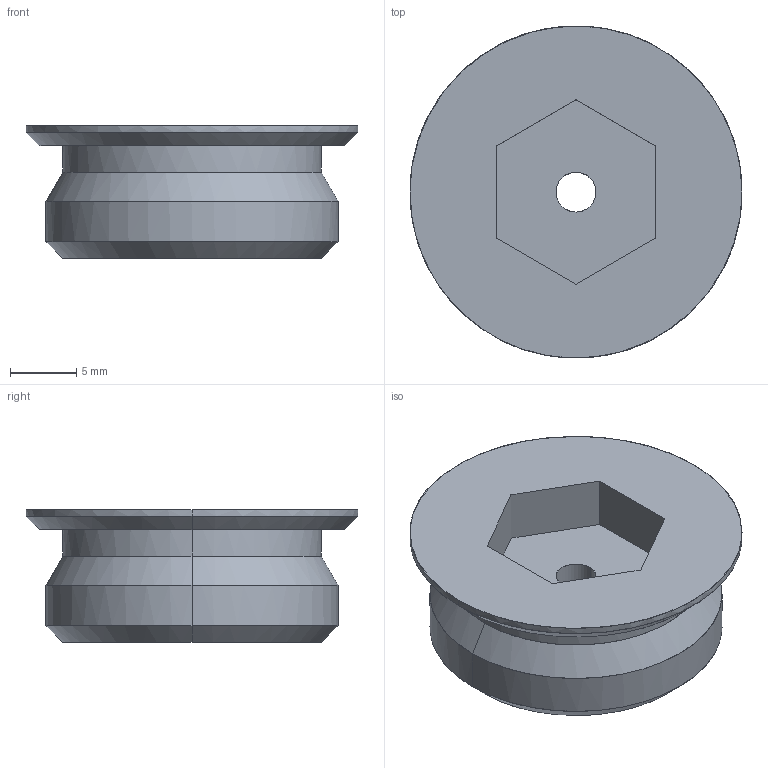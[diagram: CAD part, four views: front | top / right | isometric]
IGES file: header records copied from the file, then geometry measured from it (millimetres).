
Global section: file name: E:\UnigraphicsGraphicData\MISUMI_PRESS-PARTS\IGES\3d_mswzsh22-10_00503_r00.igs; native system: NX V5.0; preprocessor: UGS NX IGES V5.0; author: MISUMI; date: 20110105.161532; units: millimetre
Bounding box: 25 x 25 x 10 mm (x, y, z)
Surface area: 1877.9 mm2 (no closed solid volume)
Topology: 0 solids, 0 shells, 24 faces, 140 edges, 140 vertices
Faces by surface type: bspline 24
